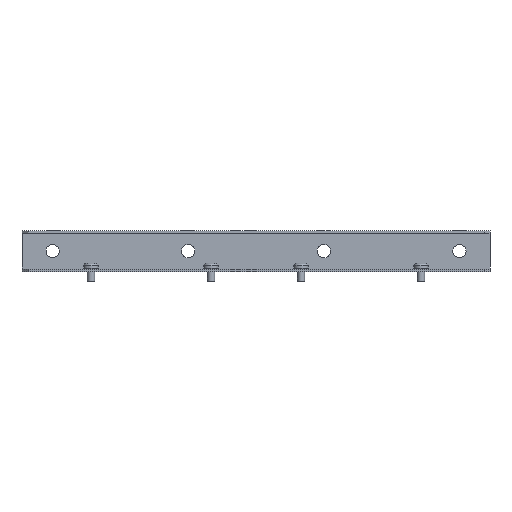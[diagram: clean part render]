
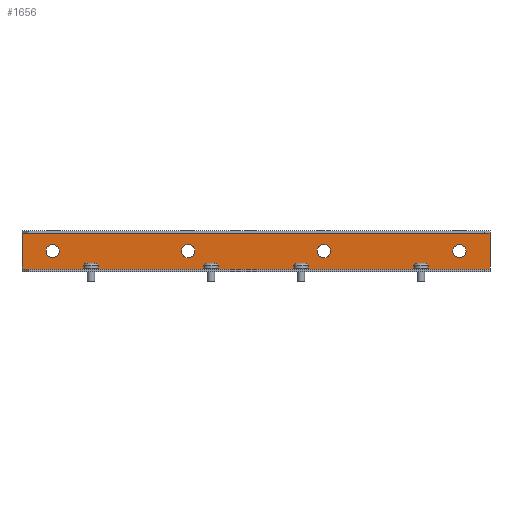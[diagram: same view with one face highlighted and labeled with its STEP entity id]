
A CAD part, left-side view. The second image highlights one B-rep face of the part: STEP entity #1656.
In plain terms, the highlighted planar face has unit normal (-1, 0, 0).
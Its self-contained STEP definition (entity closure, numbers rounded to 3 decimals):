
#93 = CARTESIAN_POINT ( 'NONE',  ( 13.5, 219., 5.5 ) ) ;
#158 = DIRECTION ( 'NONE',  ( -1., 0., 0. ) ) ;
#191 = CARTESIAN_POINT ( 'NONE',  ( 13.5, 244.5, 15. ) ) ;
#202 = VERTEX_POINT ( 'NONE', #3250 ) ;
#209 = EDGE_CURVE ( 'NONE', #3666, #923, #3726, .T. ) ;
#238 = DIRECTION ( 'NONE',  ( 0., 0., 1. ) ) ;
#246 = CARTESIAN_POINT ( 'NONE',  ( 13.5, -145.5, -15. ) ) ;
#273 = DIRECTION ( 'NONE',  ( 0., 0., -1. ) ) ;
#279 = ORIENTED_EDGE ( 'NONE', *, *, #1404, .F. ) ;
#439 = EDGE_CURVE ( 'NONE', #673, #3284, #2546, .T. ) ;
#441 = CARTESIAN_POINT ( 'NONE',  ( 13.5, -145.5, 15. ) ) ;
#454 = PLANE ( 'NONE',  #681 ) ;
#467 = AXIS2_PLACEMENT_3D ( 'NONE', #1528, #2457, #3301 ) ;
#492 = CARTESIAN_POINT ( 'NONE',  ( 13.5, 106., 5.5 ) ) ;
#523 = VERTEX_POINT ( 'NONE', #3828 ) ;
#544 = AXIS2_PLACEMENT_3D ( 'NONE', #2143, #689, #2124 ) ;
#556 = CARTESIAN_POINT ( 'NONE',  ( 13.5, -7., 0. ) ) ;
#573 = VERTEX_POINT ( 'NONE', #2677 ) ;
#612 = CIRCLE ( 'NONE', #2749, 5.5 ) ;
#667 = AXIS2_PLACEMENT_3D ( 'NONE', #2795, #1309, #2203 ) ;
#672 = EDGE_CURVE ( 'NONE', #523, #2973, #1281, .T. ) ;
#673 = VERTEX_POINT ( 'NONE', #2786 ) ;
#681 = AXIS2_PLACEMENT_3D ( 'NONE', #3759, #1666, #2850 ) ;
#689 = DIRECTION ( 'NONE',  ( -1., 0., 0. ) ) ;
#713 = ORIENTED_EDGE ( 'NONE', *, *, #976, .F. ) ;
#749 = AXIS2_PLACEMENT_3D ( 'NONE', #1741, #794, #2015 ) ;
#781 = VERTEX_POINT ( 'NONE', #191 ) ;
#794 = DIRECTION ( 'NONE',  ( -1., 0., 0. ) ) ;
#817 = EDGE_CURVE ( 'NONE', #3650, #3408, #2517, .T. ) ;
#839 = EDGE_LOOP ( 'NONE', ( #3504, #1874 ) ) ;
#870 = DIRECTION ( 'NONE',  ( 0., 0., 1. ) ) ;
#890 = LINE ( 'NONE', #2701, #3234 ) ;
#901 = ORIENTED_EDGE ( 'NONE', *, *, #2848, .F. ) ;
#903 = CARTESIAN_POINT ( 'NONE',  ( 13.5, 106., 0. ) ) ;
#904 = EDGE_LOOP ( 'NONE', ( #2086, #1941 ) ) ;
#923 = VERTEX_POINT ( 'NONE', #3275 ) ;
#935 = CIRCLE ( 'NONE', #749, 5.5 ) ;
#944 = DIRECTION ( 'NONE',  ( 0., 0., 1. ) ) ;
#946 = ORIENTED_EDGE ( 'NONE', *, *, #2095, .F. ) ;
#958 = VERTEX_POINT ( 'NONE', #2982 ) ;
#976 = EDGE_CURVE ( 'NONE', #3111, #573, #612, .T. ) ;
#1041 = CIRCLE ( 'NONE', #1417, 5.5 ) ;
#1050 = FACE_BOUND ( 'NONE', #904, .T. ) ;
#1059 = EDGE_CURVE ( 'NONE', #573, #3111, #3626, .T. ) ;
#1116 = EDGE_CURVE ( 'NONE', #2973, #781, #2436, .T. ) ;
#1126 = VECTOR ( 'NONE', #1953, 1000. ) ;
#1281 = LINE ( 'NONE', #1890, #2056 ) ;
#1287 = EDGE_LOOP ( 'NONE', ( #1618, #2714 ) ) ;
#1309 = DIRECTION ( 'NONE',  ( -1., 0., 0. ) ) ;
#1318 = CARTESIAN_POINT ( 'NONE',  ( 13.5, 244.5, -15. ) ) ;
#1357 = CARTESIAN_POINT ( 'NONE',  ( 13.5, -145.5, -15. ) ) ;
#1404 = EDGE_CURVE ( 'NONE', #523, #3650, #1745, .T. ) ;
#1414 = CIRCLE ( 'NONE', #467, 5.5 ) ;
#1417 = AXIS2_PLACEMENT_3D ( 'NONE', #3222, #158, #238 ) ;
#1431 = VECTOR ( 'NONE', #2214, 1000. ) ;
#1509 = CARTESIAN_POINT ( 'NONE',  ( 13.5, -120., 5.5 ) ) ;
#1528 = CARTESIAN_POINT ( 'NONE',  ( 13.5, -120., 0. ) ) ;
#1596 = DIRECTION ( 'NONE',  ( 0., 0., 1. ) ) ;
#1603 = DIRECTION ( 'NONE',  ( 0., 0., 1. ) ) ;
#1609 = VERTEX_POINT ( 'NONE', #2833 ) ;
#1614 = AXIS2_PLACEMENT_3D ( 'NONE', #556, #2707, #3287 ) ;
#1618 = ORIENTED_EDGE ( 'NONE', *, *, #2236, .F. ) ;
#1649 = LINE ( 'NONE', #3711, #2504 ) ;
#1656 = ADVANCED_FACE ( 'NONE', ( #2544, #3732, #1050, #2245, #3152 ), #454, .T. ) ;
#1664 = DIRECTION ( 'NONE',  ( 0., 1., 0. ) ) ;
#1666 = DIRECTION ( 'NONE',  ( -1., 0., 0. ) ) ;
#1683 = ORIENTED_EDGE ( 'NONE', *, *, #672, .T. ) ;
#1684 = ORIENTED_EDGE ( 'NONE', *, *, #2076, .F. ) ;
#1690 = VECTOR ( 'NONE', #2431, 1000. ) ;
#1702 = ORIENTED_EDGE ( 'NONE', *, *, #2300, .T. ) ;
#1737 = EDGE_CURVE ( 'NONE', #2428, #1609, #935, .T. ) ;
#1741 = CARTESIAN_POINT ( 'NONE',  ( 13.5, 219., 0. ) ) ;
#1745 = LINE ( 'NONE', #246, #1690 ) ;
#1874 = ORIENTED_EDGE ( 'NONE', *, *, #3289, .F. ) ;
#1890 = CARTESIAN_POINT ( 'NONE',  ( 13.5, -145.5, 14. ) ) ;
#1941 = ORIENTED_EDGE ( 'NONE', *, *, #2390, .F. ) ;
#1953 = DIRECTION ( 'NONE',  ( 0., 0., 1. ) ) ;
#1978 = DIRECTION ( 'NONE',  ( 0., 1., 0. ) ) ;
#2015 = DIRECTION ( 'NONE',  ( 0., 0., 1. ) ) ;
#2056 = VECTOR ( 'NONE', #1603, 1000. ) ;
#2076 = EDGE_CURVE ( 'NONE', #3408, #2527, #1649, .T. ) ;
#2086 = ORIENTED_EDGE ( 'NONE', *, *, #209, .F. ) ;
#2095 = EDGE_CURVE ( 'NONE', #202, #958, #2238, .T. ) ;
#2124 = DIRECTION ( 'NONE',  ( 0., 0., 1. ) ) ;
#2143 = CARTESIAN_POINT ( 'NONE',  ( 13.5, 106., 0. ) ) ;
#2167 = AXIS2_PLACEMENT_3D ( 'NONE', #2955, #3689, #870 ) ;
#2203 = DIRECTION ( 'NONE',  ( 0., 0., 1. ) ) ;
#2214 = DIRECTION ( 'NONE',  ( 0., 0., -1. ) ) ;
#2236 = EDGE_CURVE ( 'NONE', #1609, #2428, #1041, .T. ) ;
#2238 = LINE ( 'NONE', #3441, #1126 ) ;
#2245 = FACE_BOUND ( 'NONE', #3308, .T. ) ;
#2300 = EDGE_CURVE ( 'NONE', #202, #2527, #890, .T. ) ;
#2390 = EDGE_CURVE ( 'NONE', #923, #3666, #3861, .T. ) ;
#2392 = LINE ( 'NONE', #3592, #2674 ) ;
#2428 = VERTEX_POINT ( 'NONE', #93 ) ;
#2431 = DIRECTION ( 'NONE',  ( 0., 0., -1. ) ) ;
#2436 = LINE ( 'NONE', #3337, #2937 ) ;
#2453 = ORIENTED_EDGE ( 'NONE', *, *, #1116, .T. ) ;
#2457 = DIRECTION ( 'NONE',  ( -1., 0., 0. ) ) ;
#2504 = VECTOR ( 'NONE', #1664, 1000. ) ;
#2517 = LINE ( 'NONE', #3709, #1431 ) ;
#2527 = VERTEX_POINT ( 'NONE', #1318 ) ;
#2544 = FACE_BOUND ( 'NONE', #1287, .T. ) ;
#2546 = CIRCLE ( 'NONE', #667, 5.5 ) ;
#2674 = VECTOR ( 'NONE', #1596, 1000. ) ;
#2677 = CARTESIAN_POINT ( 'NONE',  ( 13.5, 106., -5.5 ) ) ;
#2701 = CARTESIAN_POINT ( 'NONE',  ( 13.5, 244.5, -14. ) ) ;
#2707 = DIRECTION ( 'NONE',  ( -1., 0., 0. ) ) ;
#2714 = ORIENTED_EDGE ( 'NONE', *, *, #1737, .F. ) ;
#2728 = CARTESIAN_POINT ( 'NONE',  ( 13.5, -145.5, -14. ) ) ;
#2749 = AXIS2_PLACEMENT_3D ( 'NONE', #903, #3041, #944 ) ;
#2786 = CARTESIAN_POINT ( 'NONE',  ( 13.5, -120., -5.5 ) ) ;
#2795 = CARTESIAN_POINT ( 'NONE',  ( 13.5, -120., 0. ) ) ;
#2833 = CARTESIAN_POINT ( 'NONE',  ( 13.5, 219., -5.5 ) ) ;
#2848 = EDGE_CURVE ( 'NONE', #958, #781, #2392, .T. ) ;
#2850 = DIRECTION ( 'NONE',  ( 0., 1., 0. ) ) ;
#2937 = VECTOR ( 'NONE', #1978, 1000. ) ;
#2951 = CARTESIAN_POINT ( 'NONE',  ( 13.5, -7., -5.5 ) ) ;
#2955 = CARTESIAN_POINT ( 'NONE',  ( 13.5, -7., 0. ) ) ;
#2973 = VERTEX_POINT ( 'NONE', #441 ) ;
#2982 = CARTESIAN_POINT ( 'NONE',  ( 13.5, 244.5, 14. ) ) ;
#3041 = DIRECTION ( 'NONE',  ( -1., 0., 0. ) ) ;
#3111 = VERTEX_POINT ( 'NONE', #492 ) ;
#3152 = FACE_OUTER_BOUND ( 'NONE', #3781, .T. ) ;
#3222 = CARTESIAN_POINT ( 'NONE',  ( 13.5, 219., 0. ) ) ;
#3234 = VECTOR ( 'NONE', #273, 1000. ) ;
#3250 = CARTESIAN_POINT ( 'NONE',  ( 13.5, 244.5, -14. ) ) ;
#3275 = CARTESIAN_POINT ( 'NONE',  ( 13.5, -7., 5.5 ) ) ;
#3284 = VERTEX_POINT ( 'NONE', #1509 ) ;
#3287 = DIRECTION ( 'NONE',  ( 0., 0., 1. ) ) ;
#3289 = EDGE_CURVE ( 'NONE', #3284, #673, #1414, .T. ) ;
#3301 = DIRECTION ( 'NONE',  ( 0., 0., 1. ) ) ;
#3308 = EDGE_LOOP ( 'NONE', ( #3705, #713 ) ) ;
#3337 = CARTESIAN_POINT ( 'NONE',  ( 13.5, 0., 15. ) ) ;
#3408 = VERTEX_POINT ( 'NONE', #1357 ) ;
#3441 = CARTESIAN_POINT ( 'NONE',  ( 13.5, 244.5, 13. ) ) ;
#3504 = ORIENTED_EDGE ( 'NONE', *, *, #439, .F. ) ;
#3592 = CARTESIAN_POINT ( 'NONE',  ( 13.5, 244.5, 0. ) ) ;
#3611 = ORIENTED_EDGE ( 'NONE', *, *, #817, .F. ) ;
#3626 = CIRCLE ( 'NONE', #544, 5.5 ) ;
#3650 = VERTEX_POINT ( 'NONE', #2728 ) ;
#3666 = VERTEX_POINT ( 'NONE', #2951 ) ;
#3689 = DIRECTION ( 'NONE',  ( -1., 0., 0. ) ) ;
#3705 = ORIENTED_EDGE ( 'NONE', *, *, #1059, .F. ) ;
#3709 = CARTESIAN_POINT ( 'NONE',  ( 13.5, -145.5, 0. ) ) ;
#3711 = CARTESIAN_POINT ( 'NONE',  ( 13.5, 0., -15. ) ) ;
#3726 = CIRCLE ( 'NONE', #1614, 5.5 ) ;
#3732 = FACE_BOUND ( 'NONE', #839, .T. ) ;
#3759 = CARTESIAN_POINT ( 'NONE',  ( 13.5, 0., 0. ) ) ;
#3781 = EDGE_LOOP ( 'NONE', ( #946, #1702, #1684, #3611, #279, #1683, #2453, #901 ) ) ;
#3828 = CARTESIAN_POINT ( 'NONE',  ( 13.5, -145.5, 14. ) ) ;
#3861 = CIRCLE ( 'NONE', #2167, 5.5 ) ;
